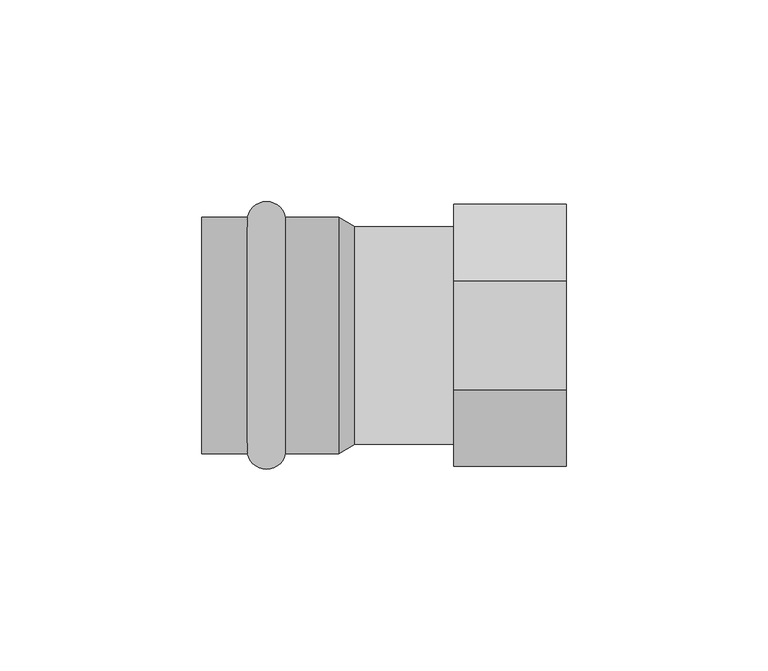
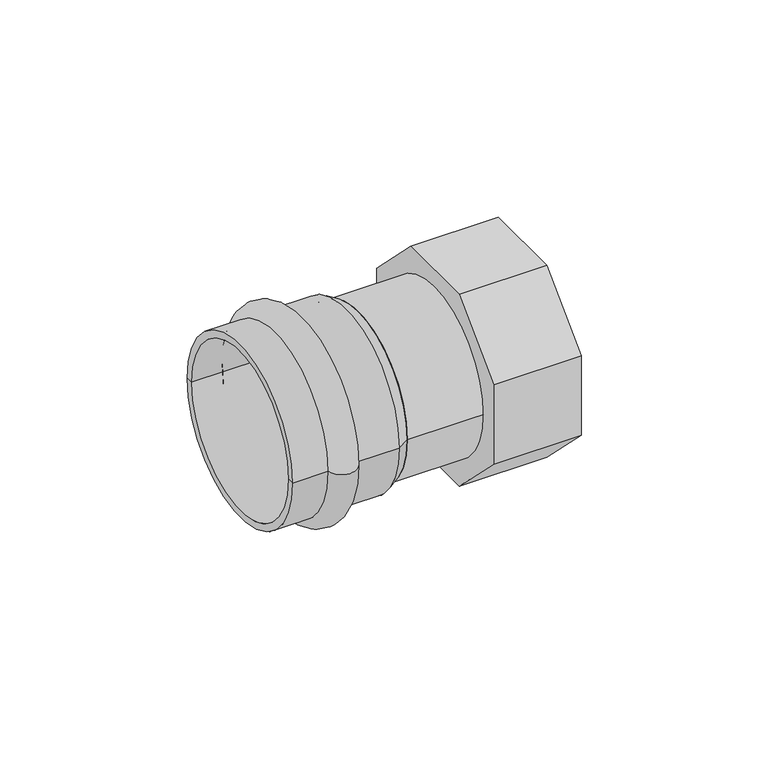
"""IFC4 building model written with IfcOpenShell, lengths in millimetres: pipe fitting geometry, VALTEC_VTi.902.I_Соединитель прямой с переходом на внутреннюю резьбу_Нержавеющая сталь : VTi.902.I."""

from ifc_helpers import new_model, si_unit, point, frame, origin, origin_2d, place, context, project, spatial, polyline, circle_curve, ellipse_curve, trimmed, segment, composite_curve, outline, extrude, source, transform, mapped, element, save
from ifc_brep_helpers import plane_surface, cylinder_surface, revolved_surface, advanced_brep


def pipe_fitting_553457e3(model_context):
    return source(origin(), model_context, "Body", "SolidModel", [
        advanced_brep(
        [(-65.1148701, -29.3, 0.0), (-65.1148701, 29.3, 0.0), (-55.6851299, 29.3, 0.0), (-55.6851299, -29.3, 0.0), (-76.5, -29.3, 0.0), (-76.5, 29.3, 0.0), (-76.5, -27.0, 0.0), (-76.5, 27.0, 0.0), (-42.5, -27.0, 0.0), (-42.5, 27.0, 0.0), (-42.5, -29.3, 0.0), (-42.5, 29.3, 0.0)],
        [
            (0, 1, circle_curve(frame((-65.1148701, 0.0, 0.0), z_axis=(1.0, 0.0, 0.0), x_axis=(0.0, 1.0, 0.0)), 29.3)),
            (1, 2, circle_curve(frame((-60.4, 28.4, 0.0), z_axis=(0.0, 0.0, -1.0), x_axis=(1.0, 0.0, 0.0)), 4.8)),
            (2, 3, circle_curve(frame((-55.6851299, 0.0, 0.0), z_axis=(-1.0, 0.0, 0.0), x_axis=(0.0, 1.0, 0.0)), 29.3)),
            (3, 0, circle_curve(frame((-60.4, -28.4, 0.0), z_axis=(0.0, 0.0, -1.0), x_axis=(1.0, 0.0, 0.0)), 4.8)),
            (1, 0, circle_curve(frame((-65.1148701, 0.0, 0.0), z_axis=(1.0, 0.0, 0.0), x_axis=(0.0, 1.0, 0.0)), 29.3)),
            (3, 2, circle_curve(frame((-55.6851299, 0.0, 0.0), z_axis=(-1.0, 0.0, 0.0), x_axis=(0.0, 1.0, 0.0)), 29.3)),
            (4, 5, circle_curve(frame((-76.5, 0.0, 0.0), z_axis=(1.0, 0.0, 0.0), x_axis=(0.0, 1.0, 0.0)), 29.3)),
            (5, 1),
            (0, 4),
            (5, 4, circle_curve(frame((-76.5, 0.0, 0.0), z_axis=(1.0, 0.0, 0.0), x_axis=(0.0, 1.0, 0.0)), 29.3)),
            (6, 7, circle_curve(frame((-76.5, 0.0, 0.0), z_axis=(1.0, 0.0, 0.0), x_axis=(0.0, 1.0, 0.0)), 27.0)),
            (7, 5),
            (4, 6),
            (7, 6, circle_curve(frame((-76.5, 0.0, 0.0), z_axis=(1.0, 0.0, 0.0), x_axis=(0.0, 1.0, 0.0)), 27.0)),
            (8, 9, circle_curve(frame((-42.5, 0.0, 0.0), z_axis=(1.0, 0.0, 0.0), x_axis=(0.0, 1.0, 0.0)), 27.0)),
            (9, 7),
            (6, 8),
            (9, 8, circle_curve(frame((-42.5, 0.0, 0.0), z_axis=(1.0, 0.0, 0.0), x_axis=(0.0, 1.0, 0.0)), 27.0)),
            (10, 11, circle_curve(frame((-42.5, 0.0, 0.0), z_axis=(1.0, 0.0, 0.0), x_axis=(0.0, 1.0, 0.0)), 29.3)),
            (11, 9),
            (8, 10),
            (11, 10, circle_curve(frame((-42.5, 0.0, 0.0), z_axis=(1.0, 0.0, 0.0), x_axis=(0.0, 1.0, 0.0)), 29.3)),
            (2, 11),
            (10, 3),
        ],
        [
            revolved_surface(trimmed(ellipse_curve(frame((-60.4, 28.4, 0.0), z_axis=(0.0, 0.0, 1.0), x_axis=(1.0, 0.0, 0.0)), 4.8, 4.8), [point((-55.6851299, 29.3, 0.0))], [point((-65.1148701, 29.3, 0.0))], True, "CARTESIAN"), (-80.0364426, 0.0, 0.0), (-1.0, 0.0, 0.0)),
            cylinder_surface(frame((-80.0364426, 0.0, 0.0), z_axis=(-1.0, 0.0, 0.0), x_axis=(0.0, 1.0, 0.0)), 29.3),
            plane_surface(frame((-76.5, 0.0, 0.0), z_axis=(-1.0, 0.0, 0.0), x_axis=(0.0, 1.0, 0.0))),
            revolved_surface(polyline([(-76.5, 27.0, 0.0), (-42.5, 27.0, 0.0)]), (-80.0364426, 0.0, 0.0), (-1.0, 0.0, 0.0)),
            plane_surface(frame((-42.5, 0.0, 0.0), z_axis=(1.0, 0.0, 0.0), x_axis=(0.0, 1.0, 0.0))),
        ],
        [
            (0, [[1, 2, 3, 4]]),
            (0, [[5, -4, 6, -2]]),
            (1, [[7, 8, -1, 9]]),
            (1, [[10, -9, -5, -8]]),
            (2, [[11, 12, -7, 13]]),
            (2, [[14, -13, -10, -12]]),
            (3, [[15, 16, -11, 17]]),
            (3, [[18, -17, -14, -16]]),
            (4, [[19, 20, -15, 21]]),
            (4, [[22, -21, -18, -20]]),
            (1, [[-3, 23, -19, 24]]),
            (1, [[-6, -24, -22, -23]]),
        ],
    ),
        extrude(outline(polyline([(13.4619408, 32.5), (32.5, 13.4619408), (32.5, -13.4619408), (13.4619408, -32.5), (-13.4619408, -32.5), (-32.5, -13.4619408), (-32.5, 13.4619408), (-13.4619408, 32.5), (13.4619408, 32.5)])), frame((-14.0, 0.0, 0.0), z_axis=(1.0, 0.0, 0.0), x_axis=(0.0, 1.0, 0.0)), (0.0, 0.0, 1.0), 28.0),
        extrude(outline(polyline([(13.4619408, 32.5), (32.5, 13.4619408), (32.5, -13.4619408), (13.4619408, -32.5), (-13.4619408, -32.5), (-32.5, -13.4619408), (-32.5, 13.4619408), (-13.4619408, 32.5), (13.4619408, 32.5)]), holes=[composite_curve([segment(trimmed(circle_curve(origin_2d(), 25.0), [point((-25.0, 0.0))], [point((25.0, 0.0))], True, "CARTESIAN"), True, "CONTINUOUS"), segment(trimmed(circle_curve(origin_2d(), 25.0), [point((25.0, 0.0))], [point((-25.0, 0.0))], True, "CARTESIAN"), True, "CONTINUOUS")], self_intersect=False)]), frame((-14.0, 0.0, 0.0), z_axis=(1.0, 0.0, 0.0), x_axis=(0.0, 1.0, 0.0)), (0.0, 0.0, 1.0), 28.0),
        extrude(outline(composite_curve([segment(trimmed(circle_curve(origin_2d(), 27.0), [point((-27.0, 0.0))], [point((27.0, 0.0))], False, "CARTESIAN"), True, "CONTINUOUS"), segment(trimmed(circle_curve(origin_2d(), 27.0), [point((27.0, 0.0))], [point((-27.0, 0.0))], False, "CARTESIAN"), True, "CONTINUOUS")], self_intersect=False)), frame((-38.5, 0.0, 0.0), z_axis=(1.0, 0.0, 0.0), x_axis=(0.0, 1.0, 0.0)), (0.0, 0.0, 1.0), 30.0),
        advanced_brep(
        [(-38.5, -27.0, 0.0), (-38.5, 27.0, 0.0), (-42.5, -29.3, 0.0), (-42.5, 29.3, 0.0)],
        [
            (0, 1, circle_curve(frame((-38.5, 0.0, 0.0), z_axis=(1.0, 0.0, 0.0), x_axis=(0.0, -1.0, 0.0)), 27.0)),
            (1, 0, circle_curve(frame((-38.5, 0.0, 0.0), z_axis=(1.0, 0.0, 0.0), x_axis=(0.0, 1.0, 0.0)), 27.0)),
            (2, 3, circle_curve(frame((-42.5, 0.0, 0.0), z_axis=(-1.0, 0.0, 0.0), x_axis=(0.0, 1.0, 0.0)), 29.3)),
            (3, 2, circle_curve(frame((-42.5, 0.0, 0.0), z_axis=(-1.0, 0.0, 0.0), x_axis=(0.0, -1.0, 0.0)), 29.3)),
            (3, 1),
            (0, 2),
        ],
        [
            plane_surface(frame((-38.5, 0.0, 0.0), z_axis=(1.0, 0.0, 0.0), x_axis=(0.0, 0.0, -1.0))),
            plane_surface(frame((-42.5, 0.0, 0.0), z_axis=(-1.0, 0.0, 0.0), x_axis=(0.0, 0.0, -1.0))),
            revolved_surface(polyline([(-38.5, -26.99999999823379, 0.0), (-42.5, -29.3, 0.0)]), (8.4565217, 0.0, 0.0), (-1.0, 0.0, 0.0)),
            revolved_surface(polyline([(-38.5, 26.99999999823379, 0.0), (-42.5, 29.3, 0.0)]), (8.4565217, 0.0, 0.0), (-1.0, 0.0, 0.0)),
        ],
        [
            (0, [[1, 2]]),
            (1, [[3, 4]]),
            (2, [[-4, 5, -1, 6]]),
            (3, [[-3, -6, -2, -5]]),
        ],
    ),
    ])


if __name__ == "__main__":
    model = new_model("IFC4")
    model_context = context("Model", 3, world=origin())
    ifc_project = project(units=[si_unit("LENGTHUNIT", "METRE", prefix="MILLI")], contexts=[model_context])
    site = spatial("IfcSite", under=ifc_project)
    building = spatial("IfcBuilding", under=site)
    placement = place(None, origin())
    pipe_fitting_shape = pipe_fitting_553457e3(model_context)
    element("IfcPipeFitting", 1, ObjectType="VALTEC_VTi.902.I_Соединитель прямой с переходом на внутреннюю резьбу_Нержавеющая сталь : VTi.902.I", at=placement, inside=building, context=model_context, shape_type="MappedRepresentation", body=[
        mapped(pipe_fitting_shape, transform((0.0, 0.0, 0.0), x_axis=(1.0, 0.0, 0.0), y_axis=(0.0, 1.0, 0.0), z_axis=(0.0, 0.0, 1.0))),
    ])
    save(model, "model.ifc")
